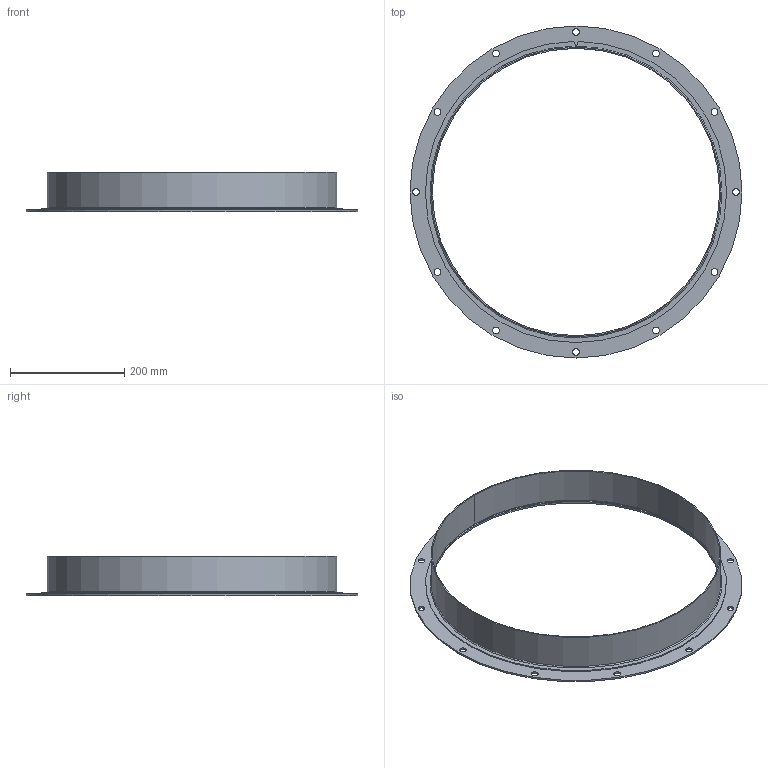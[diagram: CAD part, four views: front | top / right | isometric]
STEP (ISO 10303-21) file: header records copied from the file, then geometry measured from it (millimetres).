
FILE_DESCRIPTION(/* description */ ('Stub K-710'),/* implementation_level */ '2;1');
FILE_NAME(/* name */ 'Y:\VaultRobocze\Designs\2\0\02\900 270\2 002 900 270.stp',/* time_stamp */ '2018-03-30T10:45:40+02:00',/* author */ ('TomaszCie'),/* organization */ (''),/* preprocessor_version */ 'ST-DEVELOPER v16.13',/* originating_system */ 'Autodesk Inventor 2018',/* authorisation */ '');
FILE_SCHEMA (('AUTOMOTIVE_DESIGN { 1 0 10303 214 3 1 1 }'));
Length unit declared in the file: millimetre
Products named in the file (3): 2 002 900 270; 2 002 900 271; 2 002 900 272
Assembly tree (2 placements, depth 2):
  2 002 900 270
    2 002 900 271
    2 002 900 272
Bounding box: 581 x 581 x 69 mm (x, y, z)
Volume: 430513.6 mm3; surface area: 384598.9 mm2
Topology: 2 solids, 2 shells, 28 faces, 70 edges, 46 vertices
Faces by surface type: cylinder 17, plane 9, torus 2
Full cylindrical faces by diameter (mm): 12 x12, 503 x1, 504 x1, 507 x1, 581 x1
Entity records: 952 total; most frequent: DIRECTION 164, CARTESIAN_POINT 135, ORIENTED_EDGE 112, AXIS2_PLACEMENT_3D 75, EDGE_LOOP 68, EDGE_CURVE 56, VERTEX_POINT 46, FACE_BOUND 40
